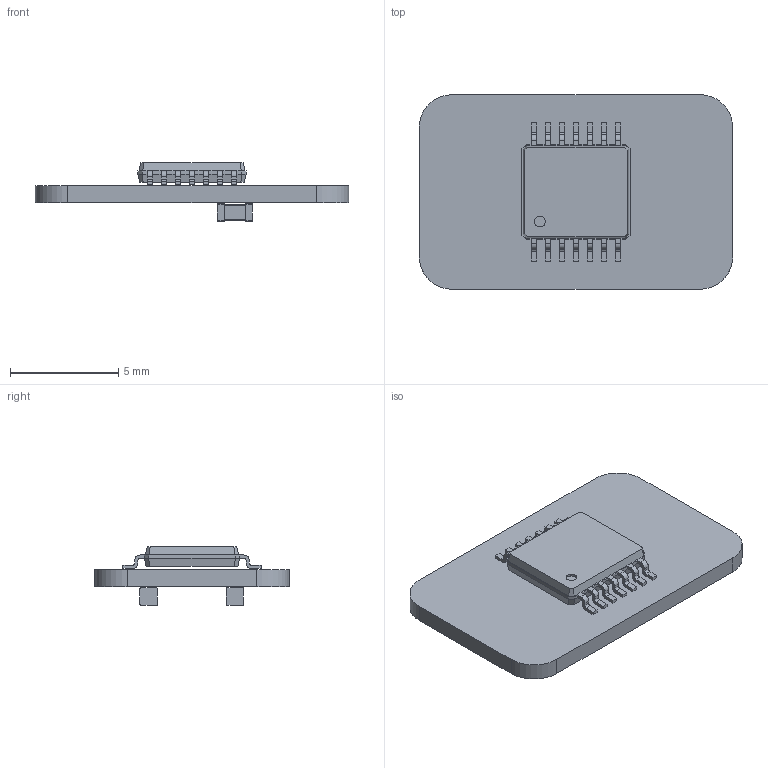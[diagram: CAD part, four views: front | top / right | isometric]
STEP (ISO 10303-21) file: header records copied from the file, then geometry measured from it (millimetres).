
FILE_DESCRIPTION(('KiCad electronic assembly'),'2;1');
FILE_NAME('AS5047.step','2026-05-11T07:45:28',('Pcbnew'),('Kicad'), 'Open CASCADE STEP processor 7.8','KiCad to STEP converter','Unknown' );
FILE_SCHEMA(('AUTOMOTIVE_DESIGN { 1 0 10303 214 1 1 1 1 }'));
Length unit declared in the file: millimetre
Products named in the file (6): AS5047 1; TSSOP-14_4.4x5mm_P0.65mm; TSSOP_14_44x5mm_P065mm; C_0603_1608Metric; _autosave-AS5047_PCB
Assembly tree (6 placements, depth 3):
  AS5047 1
    TSSOP-14_4.4x5mm_P0.65mm
      TSSOP_14_44x5mm_P065mm
    C_0603_1608Metric  x2
      C_0603_1608Metric
    _autosave-AS5047_PCB
Bounding box: 14.5 x 9 x 2.7 mm (x, y, z)
Volume: 124.3 mm3; surface area: 378 mm2
Topology: 4 solids, 4 shells, 312 faces, 817 edges, 518 vertices
Faces by surface type: plane 189, cylinder 85, bspline 38
Full cylindrical faces by diameter (mm): 0.5 x1
Entity records: 10601 total; most frequent: CARTESIAN_POINT 1652, ORIENTED_EDGE 1490, DIRECTION 1365, EDGE_CURVE 745, LINE 567, VECTOR 567, VERTEX_POINT 470, AXIS2_PLACEMENT_3D 399
